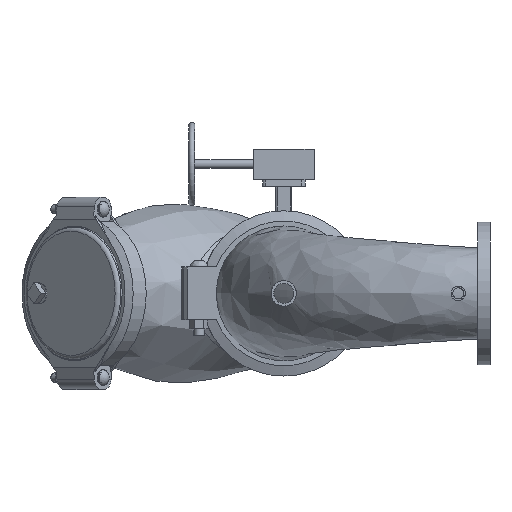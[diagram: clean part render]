
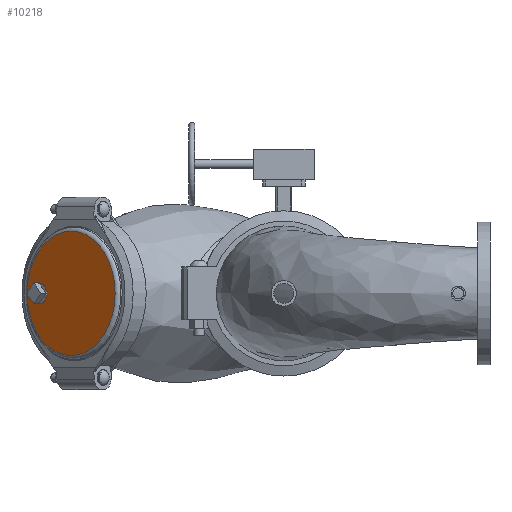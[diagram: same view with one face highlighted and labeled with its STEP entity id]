
A CAD part, front view. The second image highlights one B-rep face of the part: STEP entity #10218.
In plain terms, the highlighted planar face has unit normal (-0.707, -0.707, 0) as drawn and (1, 0, 0) by its records, which use the part's own axes.
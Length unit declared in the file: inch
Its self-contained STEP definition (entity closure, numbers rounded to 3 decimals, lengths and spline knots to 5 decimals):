
#1966=FACE_BOUND('',#2927,.T.);
#2313=FACE_OUTER_BOUND('',#2926,.T.);
#2926=EDGE_LOOP('',(#7576,#7577));
#2927=EDGE_LOOP('',(#7578));
#3528=CIRCLE('',#11316,1.);
#3536=CIRCLE('',#11327,5.8855);
#3537=CIRCLE('',#11328,5.8855);
#4313=VERTEX_POINT('',#20915);
#4321=VERTEX_POINT('',#20936);
#4322=VERTEX_POINT('',#20937);
#5489=EDGE_CURVE('',#4313,#4313,#3528,.T.);
#5498=EDGE_CURVE('',#4321,#4322,#3536,.T.);
#5499=EDGE_CURVE('',#4322,#4321,#3537,.T.);
#7576=ORIENTED_EDGE('',*,*,#5498,.T.);
#7577=ORIENTED_EDGE('',*,*,#5499,.T.);
#7578=ORIENTED_EDGE('',*,*,#5489,.T.);
#9209=PLANE('',#11330);
#10218=ADVANCED_FACE('',(#2313,#1966),#9209,.T.);
#11316=AXIS2_PLACEMENT_3D('',#20917,#13341,#13342);
#11327=AXIS2_PLACEMENT_3D('',#20938,#13364,#13365);
#11328=AXIS2_PLACEMENT_3D('',#20939,#13366,#13367);
#11330=AXIS2_PLACEMENT_3D('',#20941,#13370,#13371);
#13341=DIRECTION('center_axis',(-1.,0.,0.));
#13342=DIRECTION('ref_axis',(0.,0.,1.));
#13364=DIRECTION('center_axis',(1.,0.,0.));
#13365=DIRECTION('ref_axis',(0.,0.,-1.));
#13366=DIRECTION('center_axis',(1.,0.,0.));
#13367=DIRECTION('ref_axis',(0.,0.,-1.));
#13370=DIRECTION('center_axis',(1.,0.,0.));
#13371=DIRECTION('ref_axis',(0.,0.,-1.));
#20915=CARTESIAN_POINT('',(1.68,4.25,-1.));
#20917=CARTESIAN_POINT('Origin',(1.68,4.25,0.));
#20936=CARTESIAN_POINT('',(1.68,5.8855,0.));
#20937=CARTESIAN_POINT('',(1.68,0.,5.8855));
#20938=CARTESIAN_POINT('Origin',(1.68,0.,0.));
#20939=CARTESIAN_POINT('Origin',(1.68,0.,0.));
#20941=CARTESIAN_POINT('Origin',(1.68,0.,0.));
